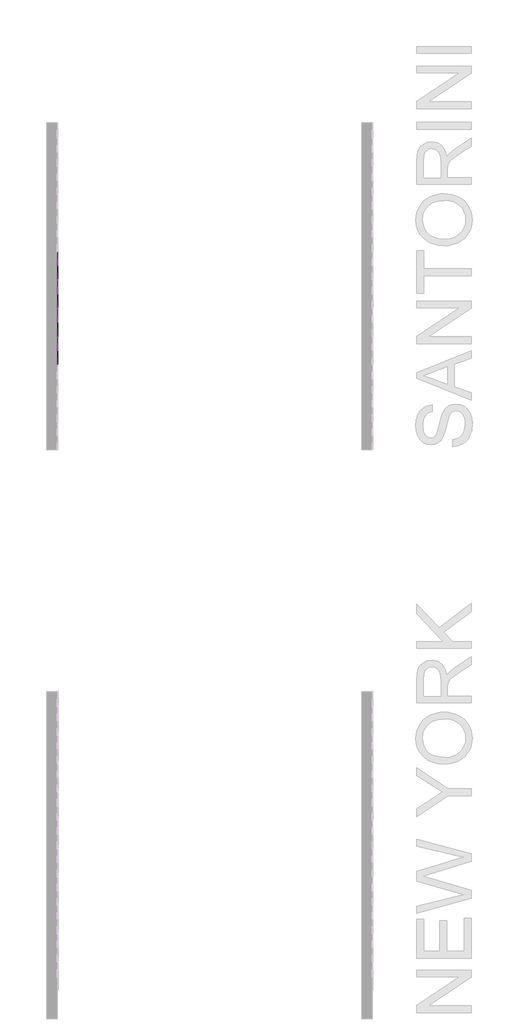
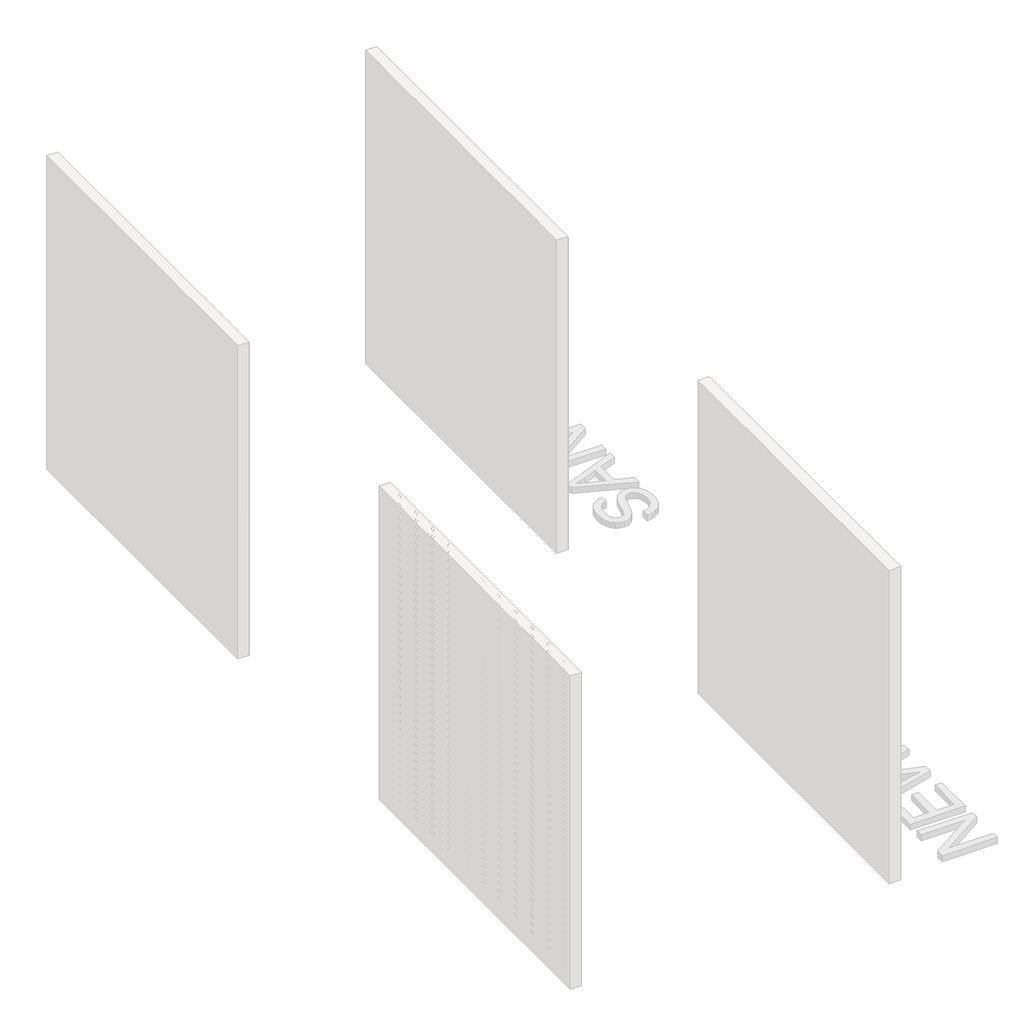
# One storey, part 26 of 45: 147 proxies.
"""IFC4 building model written with IfcOpenShell, lengths in millimetres."""

from ifc_helpers import new_model, si_unit, origin, place, context, project, spatial, transform, mapped, element, save
from components import generic_models_ab0f2c30, generic_models_8a1c671f

model = new_model("IFC4")

# Units and contexts
model_context = context("Model", 3, world=origin())
ifc_project = project(units=[si_unit("LENGTHUNIT", "METRE", prefix="MILLI")], contexts=[model_context])

# Site, building, storey
site = spatial("IfcSite", under=ifc_project)
building = spatial("IfcBuilding", under=site)
storey = spatial("IfcBuildingStorey", under=building, Name="PORTOBELLO - SHOWROOM", Elevation=0.0)

# Proxies
placement = place(None, origin())
generic_models_shape = generic_models_ab0f2c30(model_context)
element("IfcBuildingElementProxy", 1, Name="PBSHOP - HORIZONTES NEW YORK 6,5X23 : NEW YORK", ObjectType="PBSHOP - HORIZONTES NEW YORK 6,5X23 : NEW YORK", at=placement, inside=storey, context=model_context, shape_type="MappedRepresentation", body=[
    mapped(generic_models_shape, transform((69111.8826867, 8138.0036359, 34.5), x_axis=(0.0, 0.0, 1.0), y_axis=(0.0, -1.0, 0.0), z_axis=(1.0, 0.0, 0.0))),
])
element("IfcBuildingElementProxy", 2, Name="PBSHOP - HORIZONTES NEW YORK 6,5X23 : NEW YORK", ObjectType="PBSHOP - HORIZONTES NEW YORK 6,5X23 : NEW YORK", at=placement, inside=storey, context=model_context, shape_type="MappedRepresentation", body=[
    mapped(generic_models_shape, transform((69111.8826867, 8138.0036359, 103.5), x_axis=(0.0, 0.0, 1.0), y_axis=(0.0, -1.0, 0.0), z_axis=(1.0, 0.0, 0.0))),
])
element("IfcBuildingElementProxy", 3, Name="PBSHOP - HORIZONTES NEW YORK 6,5X23 : NEW YORK", ObjectType="PBSHOP - HORIZONTES NEW YORK 6,5X23 : NEW YORK", at=placement, inside=storey, context=model_context, shape_type="MappedRepresentation", body=[
    mapped(generic_models_shape, transform((69111.8826867, 8138.0036359, 172.5), x_axis=(0.0, 0.0, 1.0), y_axis=(0.0, -1.0, 0.0), z_axis=(1.0, 0.0, 0.0))),
])
element("IfcBuildingElementProxy", 4, Name="PBSHOP - HORIZONTES NEW YORK 6,5X23 : NEW YORK", ObjectType="PBSHOP - HORIZONTES NEW YORK 6,5X23 : NEW YORK", at=placement, inside=storey, context=model_context, shape_type="MappedRepresentation", body=[
    mapped(generic_models_shape, transform((69111.8826867, 8138.0036359, 241.5), x_axis=(0.0, 0.0, 1.0), y_axis=(0.0, -1.0, 0.0), z_axis=(1.0, 0.0, 0.0))),
])
element("IfcBuildingElementProxy", 5, Name="PBSHOP - HORIZONTES NEW YORK 6,5X23 : NEW YORK", ObjectType="PBSHOP - HORIZONTES NEW YORK 6,5X23 : NEW YORK", at=placement, inside=storey, context=model_context, shape_type="MappedRepresentation", body=[
    mapped(generic_models_shape, transform((69111.8826867, 8138.0036359, 310.5), x_axis=(0.0, 0.0, 1.0), y_axis=(0.0, -1.0, 0.0), z_axis=(1.0, 0.0, 0.0))),
])
element("IfcBuildingElementProxy", 6, Name="PBSHOP - HORIZONTES NEW YORK 6,5X23 : NEW YORK", ObjectType="PBSHOP - HORIZONTES NEW YORK 6,5X23 : NEW YORK", at=placement, inside=storey, context=model_context, shape_type="MappedRepresentation", body=[
    mapped(generic_models_shape, transform((69111.8826867, 8138.0036359, 379.5), x_axis=(0.0, 0.0, 1.0), y_axis=(0.0, -1.0, 0.0), z_axis=(1.0, 0.0, 0.0))),
])
element("IfcBuildingElementProxy", 7, Name="PBSHOP - HORIZONTES NEW YORK 6,5X23 : NEW YORK", ObjectType="PBSHOP - HORIZONTES NEW YORK 6,5X23 : NEW YORK", at=placement, inside=storey, context=model_context, shape_type="MappedRepresentation", body=[
    mapped(generic_models_shape, transform((69111.8826867, 8138.0036359, 448.5), x_axis=(0.0, 0.0, 1.0), y_axis=(0.0, -1.0, 0.0), z_axis=(1.0, 0.0, 0.0))),
])
element("IfcBuildingElementProxy", 8, Name="PBSHOP - HORIZONTES NEW YORK 6,5X23 : NEW YORK", ObjectType="PBSHOP - HORIZONTES NEW YORK 6,5X23 : NEW YORK", at=placement, inside=storey, context=model_context, shape_type="MappedRepresentation", body=[
    mapped(generic_models_shape, transform((69111.8826867, 8138.0036359, 517.5), x_axis=(0.0, 0.0, 1.0), y_axis=(0.0, -1.0, 0.0), z_axis=(1.0, 0.0, 0.0))),
])
element("IfcBuildingElementProxy", 9, Name="PBSHOP - HORIZONTES NEW YORK 6,5X23 : NEW YORK", ObjectType="PBSHOP - HORIZONTES NEW YORK 6,5X23 : NEW YORK", at=placement, inside=storey, context=model_context, shape_type="MappedRepresentation", body=[
    mapped(generic_models_shape, transform((69111.8826867, 8138.0036359, 586.5), x_axis=(0.0, 0.0, 1.0), y_axis=(0.0, -1.0, 0.0), z_axis=(1.0, 0.0, 0.0))),
])
element("IfcBuildingElementProxy", 10, Name="PBSHOP - HORIZONTES NEW YORK 6,5X23 : NEW YORK", ObjectType="PBSHOP - HORIZONTES NEW YORK 6,5X23 : NEW YORK", at=placement, inside=storey, context=model_context, shape_type="MappedRepresentation", body=[
    mapped(generic_models_shape, transform((69111.8826867, 8138.0036359, 655.5), x_axis=(0.0, 0.0, 1.0), y_axis=(0.0, -1.0, 0.0), z_axis=(1.0, 0.0, 0.0))),
])
element("IfcBuildingElementProxy", 11, Name="PBSHOP - HORIZONTES NEW YORK 6,5X23 : NEW YORK", ObjectType="PBSHOP - HORIZONTES NEW YORK 6,5X23 : NEW YORK", at=placement, inside=storey, context=model_context, shape_type="MappedRepresentation", body=[
    mapped(generic_models_shape, transform((69111.8826867, 8138.0036359, 724.5), x_axis=(0.0, 0.0, 1.0), y_axis=(0.0, -1.0, 0.0), z_axis=(1.0, 0.0, 0.0))),
])
element("IfcBuildingElementProxy", 12, Name="PBSHOP - HORIZONTES NEW YORK 6,5X23 : NEW YORK", ObjectType="PBSHOP - HORIZONTES NEW YORK 6,5X23 : NEW YORK", at=placement, inside=storey, context=model_context, shape_type="MappedRepresentation", body=[
    mapped(generic_models_shape, transform((69111.8826867, 8138.0036359, 793.5), x_axis=(0.0, 0.0, 1.0), y_axis=(0.0, -1.0, 0.0), z_axis=(1.0, 0.0, 0.0))),
])
element("IfcBuildingElementProxy", 13, Name="PBSHOP - HORIZONTES SANTORINI 6,5X23 : SANTORINI ROTAS", ObjectType="PBSHOP - HORIZONTES SANTORINI 6,5X23 : SANTORINI ROTAS", at=placement, inside=storey, context=model_context, shape_type="MappedRepresentation", body=[
    mapped(generic_models_shape, transform((66511.8826867, 11428.0312463, 586.5), x_axis=(0.0, 0.0, 1.0), y_axis=(0.0, -1.0, 0.0), z_axis=(1.0, 0.0, 0.0))),
])
element("IfcBuildingElementProxy", 14, Name="PBSHOP - HORIZONTES SANTORINI 6,5X23 : SANTORINI ROTAS", ObjectType="PBSHOP - HORIZONTES SANTORINI 6,5X23 : SANTORINI ROTAS", at=placement, inside=storey, context=model_context, shape_type="MappedRepresentation", body=[
    mapped(generic_models_shape, transform((66511.8826867, 11662.0312463, 586.5), x_axis=(0.0, 0.0, 1.0), y_axis=(0.0, -1.0, 0.0), z_axis=(1.0, 0.0, 0.0))),
])
element("IfcBuildingElementProxy", 15, Name="PBSHOP - HORIZONTES SANTORINI 6,5X23 : SANTORINI ROTAS", ObjectType="PBSHOP - HORIZONTES SANTORINI 6,5X23 : SANTORINI ROTAS", at=placement, inside=storey, context=model_context, shape_type="MappedRepresentation", body=[
    mapped(generic_models_shape, transform((66511.8826867, 11896.0312463, 586.5), x_axis=(0.0, 0.0, 1.0), y_axis=(0.0, -1.0, 0.0), z_axis=(1.0, 0.0, 0.0))),
])
element("IfcBuildingElementProxy", 16, Name="PBSHOP - HORIZONTES SANTORINI 6,5X23 : SANTORINI ROTAS", ObjectType="PBSHOP - HORIZONTES SANTORINI 6,5X23 : SANTORINI ROTAS", at=placement, inside=storey, context=model_context, shape_type="MappedRepresentation", body=[
    mapped(generic_models_shape, transform((66511.8826867, 11194.0312463, 655.5), x_axis=(0.0, 0.0, 1.0), y_axis=(0.0, -1.0, 0.0), z_axis=(1.0, 0.0, 0.0))),
])
element("IfcBuildingElementProxy", 17, Name="PBSHOP - HORIZONTES SANTORINI 6,5X23 : SANTORINI ROTAS", ObjectType="PBSHOP - HORIZONTES SANTORINI 6,5X23 : SANTORINI ROTAS", at=placement, inside=storey, context=model_context, shape_type="MappedRepresentation", body=[
    mapped(generic_models_shape, transform((66511.8826867, 11428.0312463, 655.5), x_axis=(0.0, 0.0, 1.0), y_axis=(0.0, -1.0, 0.0), z_axis=(1.0, 0.0, 0.0))),
])
element("IfcBuildingElementProxy", 18, Name="PBSHOP - HORIZONTES SANTORINI 6,5X23 : SANTORINI ROTAS", ObjectType="PBSHOP - HORIZONTES SANTORINI 6,5X23 : SANTORINI ROTAS", at=placement, inside=storey, context=model_context, shape_type="MappedRepresentation", body=[
    mapped(generic_models_shape, transform((66511.8826867, 11662.0312463, 655.5), x_axis=(0.0, 0.0, 1.0), y_axis=(0.0, -1.0, 0.0), z_axis=(1.0, 0.0, 0.0))),
])
element("IfcBuildingElementProxy", 19, Name="PBSHOP - HORIZONTES SANTORINI 6,5X23 : SANTORINI ROTAS", ObjectType="PBSHOP - HORIZONTES SANTORINI 6,5X23 : SANTORINI ROTAS", at=placement, inside=storey, context=model_context, shape_type="MappedRepresentation", body=[
    mapped(generic_models_shape, transform((66511.8826867, 11896.0312463, 655.5), x_axis=(0.0, 0.0, 1.0), y_axis=(0.0, -1.0, 0.0), z_axis=(1.0, 0.0, 0.0))),
])
element("IfcBuildingElementProxy", 20, Name="PBSHOP - HORIZONTES SANTORINI 6,5X23 : SANTORINI ROTAS", ObjectType="PBSHOP - HORIZONTES SANTORINI 6,5X23 : SANTORINI ROTAS", at=placement, inside=storey, context=model_context, shape_type="MappedRepresentation", body=[
    mapped(generic_models_shape, transform((66511.8826867, 11194.0312463, 724.5), x_axis=(0.0, 0.0, 1.0), y_axis=(0.0, -1.0, 0.0), z_axis=(1.0, 0.0, 0.0))),
])
element("IfcBuildingElementProxy", 21, Name="PBSHOP - HORIZONTES SANTORINI 6,5X23 : SANTORINI ROTAS", ObjectType="PBSHOP - HORIZONTES SANTORINI 6,5X23 : SANTORINI ROTAS", at=placement, inside=storey, context=model_context, shape_type="MappedRepresentation", body=[
    mapped(generic_models_shape, transform((66511.8826867, 11428.0312463, 724.5), x_axis=(0.0, 0.0, 1.0), y_axis=(0.0, -1.0, 0.0), z_axis=(1.0, 0.0, 0.0))),
])
element("IfcBuildingElementProxy", 22, Name="PBSHOP - HORIZONTES SANTORINI 6,5X23 : SANTORINI ROTAS", ObjectType="PBSHOP - HORIZONTES SANTORINI 6,5X23 : SANTORINI ROTAS", at=placement, inside=storey, context=model_context, shape_type="MappedRepresentation", body=[
    mapped(generic_models_shape, transform((66511.8826867, 11662.0312463, 724.5), x_axis=(0.0, 0.0, 1.0), y_axis=(0.0, -1.0, 0.0), z_axis=(1.0, 0.0, 0.0))),
])
element("IfcBuildingElementProxy", 23, Name="PBSHOP - HORIZONTES SANTORINI 6,5X23 : SANTORINI ROTAS", ObjectType="PBSHOP - HORIZONTES SANTORINI 6,5X23 : SANTORINI ROTAS", at=placement, inside=storey, context=model_context, shape_type="MappedRepresentation", body=[
    mapped(generic_models_shape, transform((66511.8826867, 11896.0312463, 724.5), x_axis=(0.0, 0.0, 1.0), y_axis=(0.0, -1.0, 0.0), z_axis=(1.0, 0.0, 0.0))),
])
element("IfcBuildingElementProxy", 24, Name="PBSHOP - HORIZONTES SANTORINI 6,5X23 : SANTORINI ROTAS", ObjectType="PBSHOP - HORIZONTES SANTORINI 6,5X23 : SANTORINI ROTAS", at=placement, inside=storey, context=model_context, shape_type="MappedRepresentation", body=[
    mapped(generic_models_shape, transform((66511.8826867, 11194.0312463, 793.5), x_axis=(0.0, 0.0, 1.0), y_axis=(0.0, -1.0, 0.0), z_axis=(1.0, 0.0, 0.0))),
])
element("IfcBuildingElementProxy", 25, Name="PBSHOP - HORIZONTES SANTORINI 6,5X23 : SANTORINI ROTAS", ObjectType="PBSHOP - HORIZONTES SANTORINI 6,5X23 : SANTORINI ROTAS", at=placement, inside=storey, context=model_context, shape_type="MappedRepresentation", body=[
    mapped(generic_models_shape, transform((66511.8826867, 11428.0312463, 793.5), x_axis=(0.0, 0.0, 1.0), y_axis=(0.0, -1.0, 0.0), z_axis=(1.0, 0.0, 0.0))),
])
element("IfcBuildingElementProxy", 26, Name="PBSHOP - HORIZONTES SANTORINI 6,5X23 : SANTORINI ROTAS", ObjectType="PBSHOP - HORIZONTES SANTORINI 6,5X23 : SANTORINI ROTAS", at=placement, inside=storey, context=model_context, shape_type="MappedRepresentation", body=[
    mapped(generic_models_shape, transform((66511.8826867, 11662.0312463, 793.5), x_axis=(0.0, 0.0, 1.0), y_axis=(0.0, -1.0, 0.0), z_axis=(1.0, 0.0, 0.0))),
])
element("IfcBuildingElementProxy", 27, Name="PBSHOP - HORIZONTES SANTORINI 6,5X23 : SANTORINI ROTAS", ObjectType="PBSHOP - HORIZONTES SANTORINI 6,5X23 : SANTORINI ROTAS", at=placement, inside=storey, context=model_context, shape_type="MappedRepresentation", body=[
    mapped(generic_models_shape, transform((66511.8826867, 11896.0312463, 793.5), x_axis=(0.0, 0.0, 1.0), y_axis=(0.0, -1.0, 0.0), z_axis=(1.0, 0.0, 0.0))),
])
element("IfcBuildingElementProxy", 28, Name="PBSHOP - HORIZONTES SANTORINI 6,5X23 : SANTORINI ROTAS", ObjectType="PBSHOP - HORIZONTES SANTORINI 6,5X23 : SANTORINI ROTAS", at=placement, inside=storey, context=model_context, shape_type="MappedRepresentation", body=[
    mapped(generic_models_shape, transform((66511.8826867, 11194.0312463, 862.5), x_axis=(0.0, 0.0, 1.0), y_axis=(0.0, -1.0, 0.0), z_axis=(1.0, 0.0, 0.0))),
])
element("IfcBuildingElementProxy", 29, Name="PBSHOP - HORIZONTES SANTORINI 6,5X23 : SANTORINI ROTAS", ObjectType="PBSHOP - HORIZONTES SANTORINI 6,5X23 : SANTORINI ROTAS", at=placement, inside=storey, context=model_context, shape_type="MappedRepresentation", body=[
    mapped(generic_models_shape, transform((66511.8826867, 11428.0312463, 862.5), x_axis=(0.0, 0.0, 1.0), y_axis=(0.0, -1.0, 0.0), z_axis=(1.0, 0.0, 0.0))),
])
element("IfcBuildingElementProxy", 30, Name="PBSHOP - HORIZONTES SANTORINI 6,5X23 : SANTORINI ROTAS", ObjectType="PBSHOP - HORIZONTES SANTORINI 6,5X23 : SANTORINI ROTAS", at=placement, inside=storey, context=model_context, shape_type="MappedRepresentation", body=[
    mapped(generic_models_shape, transform((66511.8826867, 11662.0312463, 862.5), x_axis=(0.0, 0.0, 1.0), y_axis=(0.0, -1.0, 0.0), z_axis=(1.0, 0.0, 0.0))),
])
element("IfcBuildingElementProxy", 31, Name="PBSHOP - HORIZONTES SANTORINI 6,5X23 : SANTORINI ROTAS", ObjectType="PBSHOP - HORIZONTES SANTORINI 6,5X23 : SANTORINI ROTAS", at=placement, inside=storey, context=model_context, shape_type="MappedRepresentation", body=[
    mapped(generic_models_shape, transform((66511.8826867, 11896.0312463, 862.5), x_axis=(0.0, 0.0, 1.0), y_axis=(0.0, -1.0, 0.0), z_axis=(1.0, 0.0, 0.0))),
])
element("IfcBuildingElementProxy", 32, Name="PBSHOP - HORIZONTES SANTORINI 6,5X23 : SANTORINI ROTAS", ObjectType="PBSHOP - HORIZONTES SANTORINI 6,5X23 : SANTORINI ROTAS", at=placement, inside=storey, context=model_context, shape_type="MappedRepresentation", body=[
    mapped(generic_models_shape, transform((66511.8826867, 11194.0312463, 931.5), x_axis=(0.0, 0.0, 1.0), y_axis=(0.0, -1.0, 0.0), z_axis=(1.0, 0.0, 0.0))),
])
element("IfcBuildingElementProxy", 33, Name="PBSHOP - HORIZONTES SANTORINI 6,5X23 : SANTORINI ROTAS", ObjectType="PBSHOP - HORIZONTES SANTORINI 6,5X23 : SANTORINI ROTAS", at=placement, inside=storey, context=model_context, shape_type="MappedRepresentation", body=[
    mapped(generic_models_shape, transform((66511.8826867, 11428.0312463, 931.5), x_axis=(0.0, 0.0, 1.0), y_axis=(0.0, -1.0, 0.0), z_axis=(1.0, 0.0, 0.0))),
])
element("IfcBuildingElementProxy", 34, Name="PBSHOP - HORIZONTES SANTORINI 6,5X23 : SANTORINI ROTAS", ObjectType="PBSHOP - HORIZONTES SANTORINI 6,5X23 : SANTORINI ROTAS", at=placement, inside=storey, context=model_context, shape_type="MappedRepresentation", body=[
    mapped(generic_models_shape, transform((66511.8826867, 11662.0312463, 931.5), x_axis=(0.0, 0.0, 1.0), y_axis=(0.0, -1.0, 0.0), z_axis=(1.0, 0.0, 0.0))),
])
element("IfcBuildingElementProxy", 35, Name="PBSHOP - HORIZONTES SANTORINI 6,5X23 : SANTORINI ROTAS", ObjectType="PBSHOP - HORIZONTES SANTORINI 6,5X23 : SANTORINI ROTAS", at=placement, inside=storey, context=model_context, shape_type="MappedRepresentation", body=[
    mapped(generic_models_shape, transform((66511.8826867, 11896.0312463, 931.5), x_axis=(0.0, 0.0, 1.0), y_axis=(0.0, -1.0, 0.0), z_axis=(1.0, 0.0, 0.0))),
])
element("IfcBuildingElementProxy", 36, Name="PBSHOP - HORIZONTES SANTORINI 6,5X23 : SANTORINI ROTAS", ObjectType="PBSHOP - HORIZONTES SANTORINI 6,5X23 : SANTORINI ROTAS", at=placement, inside=storey, context=model_context, shape_type="MappedRepresentation", body=[
    mapped(generic_models_shape, transform((66511.8826867, 11194.0312463, 1000.5), x_axis=(0.0, 0.0, 1.0), y_axis=(0.0, -1.0, 0.0), z_axis=(1.0, 0.0, 0.0))),
])
element("IfcBuildingElementProxy", 37, Name="PBSHOP - HORIZONTES SANTORINI 6,5X23 : SANTORINI ROTAS", ObjectType="PBSHOP - HORIZONTES SANTORINI 6,5X23 : SANTORINI ROTAS", at=placement, inside=storey, context=model_context, shape_type="MappedRepresentation", body=[
    mapped(generic_models_shape, transform((66511.8826867, 11428.0312463, 1000.5), x_axis=(0.0, 0.0, 1.0), y_axis=(0.0, -1.0, 0.0), z_axis=(1.0, 0.0, 0.0))),
])
element("IfcBuildingElementProxy", 38, Name="PBSHOP - HORIZONTES SANTORINI 6,5X23 : SANTORINI ROTAS", ObjectType="PBSHOP - HORIZONTES SANTORINI 6,5X23 : SANTORINI ROTAS", at=placement, inside=storey, context=model_context, shape_type="MappedRepresentation", body=[
    mapped(generic_models_shape, transform((66511.8826867, 11662.0312463, 1000.5), x_axis=(0.0, 0.0, 1.0), y_axis=(0.0, -1.0, 0.0), z_axis=(1.0, 0.0, 0.0))),
])
element("IfcBuildingElementProxy", 39, Name="PBSHOP - HORIZONTES SANTORINI 6,5X23 : SANTORINI ROTAS", ObjectType="PBSHOP - HORIZONTES SANTORINI 6,5X23 : SANTORINI ROTAS", at=placement, inside=storey, context=model_context, shape_type="MappedRepresentation", body=[
    mapped(generic_models_shape, transform((66511.8826867, 11896.0312463, 1000.5), x_axis=(0.0, 0.0, 1.0), y_axis=(0.0, -1.0, 0.0), z_axis=(1.0, 0.0, 0.0))),
])
element("IfcBuildingElementProxy", 40, Name="PBSHOP - HORIZONTES SANTORINI 6,5X23 : SANTORINI ROTAS", ObjectType="PBSHOP - HORIZONTES SANTORINI 6,5X23 : SANTORINI ROTAS", at=placement, inside=storey, context=model_context, shape_type="MappedRepresentation", body=[
    mapped(generic_models_shape, transform((66511.8826867, 11194.0312463, 1069.5), x_axis=(0.0, 0.0, 1.0), y_axis=(0.0, -1.0, 0.0), z_axis=(1.0, 0.0, 0.0))),
])
element("IfcBuildingElementProxy", 41, Name="PBSHOP - HORIZONTES SANTORINI 6,5X23 : SANTORINI ROTAS", ObjectType="PBSHOP - HORIZONTES SANTORINI 6,5X23 : SANTORINI ROTAS", at=placement, inside=storey, context=model_context, shape_type="MappedRepresentation", body=[
    mapped(generic_models_shape, transform((66511.8826867, 11428.0312463, 1069.5), x_axis=(0.0, 0.0, 1.0), y_axis=(0.0, -1.0, 0.0), z_axis=(1.0, 0.0, 0.0))),
])
element("IfcBuildingElementProxy", 42, Name="PBSHOP - HORIZONTES SANTORINI 6,5X23 : SANTORINI ROTAS", ObjectType="PBSHOP - HORIZONTES SANTORINI 6,5X23 : SANTORINI ROTAS", at=placement, inside=storey, context=model_context, shape_type="MappedRepresentation", body=[
    mapped(generic_models_shape, transform((66511.8826867, 11662.0312463, 1069.5), x_axis=(0.0, 0.0, 1.0), y_axis=(0.0, -1.0, 0.0), z_axis=(1.0, 0.0, 0.0))),
])
element("IfcBuildingElementProxy", 43, Name="PBSHOP - HORIZONTES SANTORINI 6,5X23 : SANTORINI ROTAS", ObjectType="PBSHOP - HORIZONTES SANTORINI 6,5X23 : SANTORINI ROTAS", at=placement, inside=storey, context=model_context, shape_type="MappedRepresentation", body=[
    mapped(generic_models_shape, transform((66511.8826867, 11896.0312463, 1069.5), x_axis=(0.0, 0.0, 1.0), y_axis=(0.0, -1.0, 0.0), z_axis=(1.0, 0.0, 0.0))),
])
element("IfcBuildingElementProxy", 44, Name="PBSHOP - HORIZONTES SANTORINI 6,5X23 : SANTORINI ROTAS", ObjectType="PBSHOP - HORIZONTES SANTORINI 6,5X23 : SANTORINI ROTAS", at=placement, inside=storey, context=model_context, shape_type="MappedRepresentation", body=[
    mapped(generic_models_shape, transform((66511.8826867, 11194.0312463, 1138.5), x_axis=(0.0, 0.0, 1.0), y_axis=(0.0, -1.0, 0.0), z_axis=(1.0, 0.0, 0.0))),
])
element("IfcBuildingElementProxy", 45, Name="PBSHOP - HORIZONTES SANTORINI 6,5X23 : SANTORINI ROTAS", ObjectType="PBSHOP - HORIZONTES SANTORINI 6,5X23 : SANTORINI ROTAS", at=placement, inside=storey, context=model_context, shape_type="MappedRepresentation", body=[
    mapped(generic_models_shape, transform((66511.8826867, 11428.0312463, 1138.5), x_axis=(0.0, 0.0, 1.0), y_axis=(0.0, -1.0, 0.0), z_axis=(1.0, 0.0, 0.0))),
])
element("IfcBuildingElementProxy", 46, Name="PBSHOP - HORIZONTES SANTORINI 6,5X23 : SANTORINI ROTAS", ObjectType="PBSHOP - HORIZONTES SANTORINI 6,5X23 : SANTORINI ROTAS", at=placement, inside=storey, context=model_context, shape_type="MappedRepresentation", body=[
    mapped(generic_models_shape, transform((66511.8826867, 11662.0312463, 1138.5), x_axis=(0.0, 0.0, 1.0), y_axis=(0.0, -1.0, 0.0), z_axis=(1.0, 0.0, 0.0))),
])
element("IfcBuildingElementProxy", 47, Name="PBSHOP - HORIZONTES SANTORINI 6,5X23 : SANTORINI ROTAS", ObjectType="PBSHOP - HORIZONTES SANTORINI 6,5X23 : SANTORINI ROTAS", at=placement, inside=storey, context=model_context, shape_type="MappedRepresentation", body=[
    mapped(generic_models_shape, transform((66511.8826867, 11896.0312463, 1138.5), x_axis=(0.0, 0.0, 1.0), y_axis=(0.0, -1.0, 0.0), z_axis=(1.0, 0.0, 0.0))),
])
element("IfcBuildingElementProxy", 48, Name="PBSHOP - HORIZONTES SANTORINI 6,5X23 : SANTORINI ROTAS", ObjectType="PBSHOP - HORIZONTES SANTORINI 6,5X23 : SANTORINI ROTAS", at=placement, inside=storey, context=model_context, shape_type="MappedRepresentation", body=[
    mapped(generic_models_shape, transform((66511.8826867, 11194.0312463, 1207.5), x_axis=(0.0, 0.0, 1.0), y_axis=(0.0, -1.0, 0.0), z_axis=(1.0, 0.0, 0.0))),
])
element("IfcBuildingElementProxy", 49, Name="PBSHOP - HORIZONTES SANTORINI 6,5X23 : SANTORINI ROTAS", ObjectType="PBSHOP - HORIZONTES SANTORINI 6,5X23 : SANTORINI ROTAS", at=placement, inside=storey, context=model_context, shape_type="MappedRepresentation", body=[
    mapped(generic_models_shape, transform((66511.8826867, 11428.0312463, 1207.5), x_axis=(0.0, 0.0, 1.0), y_axis=(0.0, -1.0, 0.0), z_axis=(1.0, 0.0, 0.0))),
])
element("IfcBuildingElementProxy", 50, Name="PBSHOP - HORIZONTES SANTORINI 6,5X23 : SANTORINI ROTAS", ObjectType="PBSHOP - HORIZONTES SANTORINI 6,5X23 : SANTORINI ROTAS", at=placement, inside=storey, context=model_context, shape_type="MappedRepresentation", body=[
    mapped(generic_models_shape, transform((66511.8826867, 11662.0312463, 1207.5), x_axis=(0.0, 0.0, 1.0), y_axis=(0.0, -1.0, 0.0), z_axis=(1.0, 0.0, 0.0))),
])
element("IfcBuildingElementProxy", 51, Name="PBSHOP - HORIZONTES SANTORINI 6,5X23 : SANTORINI ROTAS", ObjectType="PBSHOP - HORIZONTES SANTORINI 6,5X23 : SANTORINI ROTAS", at=placement, inside=storey, context=model_context, shape_type="MappedRepresentation", body=[
    mapped(generic_models_shape, transform((66511.8826867, 11896.0312463, 1207.5), x_axis=(0.0, 0.0, 1.0), y_axis=(0.0, -1.0, 0.0), z_axis=(1.0, 0.0, 0.0))),
])
element("IfcBuildingElementProxy", 52, Name="PBSHOP - HORIZONTES SANTORINI 6,5X23 : SANTORINI ROTAS", ObjectType="PBSHOP - HORIZONTES SANTORINI 6,5X23 : SANTORINI ROTAS", at=placement, inside=storey, context=model_context, shape_type="MappedRepresentation", body=[
    mapped(generic_models_shape, transform((66511.8826867, 11194.0312463, 1276.5), x_axis=(0.0, 0.0, 1.0), y_axis=(0.0, -1.0, 0.0), z_axis=(1.0, 0.0, 0.0))),
])
element("IfcBuildingElementProxy", 53, Name="PBSHOP - HORIZONTES SANTORINI 6,5X23 : SANTORINI ROTAS", ObjectType="PBSHOP - HORIZONTES SANTORINI 6,5X23 : SANTORINI ROTAS", at=placement, inside=storey, context=model_context, shape_type="MappedRepresentation", body=[
    mapped(generic_models_shape, transform((66511.8826867, 11428.0312463, 1276.5), x_axis=(0.0, 0.0, 1.0), y_axis=(0.0, -1.0, 0.0), z_axis=(1.0, 0.0, 0.0))),
])
element("IfcBuildingElementProxy", 54, Name="PBSHOP - HORIZONTES SANTORINI 6,5X23 : SANTORINI ROTAS", ObjectType="PBSHOP - HORIZONTES SANTORINI 6,5X23 : SANTORINI ROTAS", at=placement, inside=storey, context=model_context, shape_type="MappedRepresentation", body=[
    mapped(generic_models_shape, transform((66511.8826867, 11662.0312463, 1276.5), x_axis=(0.0, 0.0, 1.0), y_axis=(0.0, -1.0, 0.0), z_axis=(1.0, 0.0, 0.0))),
])
element("IfcBuildingElementProxy", 55, Name="PBSHOP - HORIZONTES SANTORINI 6,5X23 : SANTORINI ROTAS", ObjectType="PBSHOP - HORIZONTES SANTORINI 6,5X23 : SANTORINI ROTAS", at=placement, inside=storey, context=model_context, shape_type="MappedRepresentation", body=[
    mapped(generic_models_shape, transform((66511.8826867, 11896.0312463, 1276.5), x_axis=(0.0, 0.0, 1.0), y_axis=(0.0, -1.0, 0.0), z_axis=(1.0, 0.0, 0.0))),
])
element("IfcBuildingElementProxy", 56, Name="PBSHOP - HORIZONTES SANTORINI 6,5X23 : SANTORINI ROTAS", ObjectType="PBSHOP - HORIZONTES SANTORINI 6,5X23 : SANTORINI ROTAS", at=placement, inside=storey, context=model_context, shape_type="MappedRepresentation", body=[
    mapped(generic_models_shape, transform((66511.8826867, 11194.0312463, 1345.5), x_axis=(0.0, 0.0, 1.0), y_axis=(0.0, -1.0, 0.0), z_axis=(1.0, 0.0, 0.0))),
])
element("IfcBuildingElementProxy", 57, Name="PBSHOP - HORIZONTES SANTORINI 6,5X23 : SANTORINI ROTAS", ObjectType="PBSHOP - HORIZONTES SANTORINI 6,5X23 : SANTORINI ROTAS", at=placement, inside=storey, context=model_context, shape_type="MappedRepresentation", body=[
    mapped(generic_models_shape, transform((66511.8826867, 11428.0312463, 1345.5), x_axis=(0.0, 0.0, 1.0), y_axis=(0.0, -1.0, 0.0), z_axis=(1.0, 0.0, 0.0))),
])
element("IfcBuildingElementProxy", 58, Name="PBSHOP - HORIZONTES SANTORINI 6,5X23 : SANTORINI ROTAS", ObjectType="PBSHOP - HORIZONTES SANTORINI 6,5X23 : SANTORINI ROTAS", at=placement, inside=storey, context=model_context, shape_type="MappedRepresentation", body=[
    mapped(generic_models_shape, transform((66511.8826867, 11662.0312463, 1345.5), x_axis=(0.0, 0.0, 1.0), y_axis=(0.0, -1.0, 0.0), z_axis=(1.0, 0.0, 0.0))),
])
element("IfcBuildingElementProxy", 59, Name="PBSHOP - HORIZONTES SANTORINI 6,5X23 : SANTORINI ROTAS", ObjectType="PBSHOP - HORIZONTES SANTORINI 6,5X23 : SANTORINI ROTAS", at=placement, inside=storey, context=model_context, shape_type="MappedRepresentation", body=[
    mapped(generic_models_shape, transform((66511.8826867, 11896.0312463, 1345.5), x_axis=(0.0, 0.0, 1.0), y_axis=(0.0, -1.0, 0.0), z_axis=(1.0, 0.0, 0.0))),
])
element("IfcBuildingElementProxy", 60, Name="PBSHOP - HORIZONTES SANTORINI 6,5X23 : SANTORINI ROTAS", ObjectType="PBSHOP - HORIZONTES SANTORINI 6,5X23 : SANTORINI ROTAS", at=placement, inside=storey, context=model_context, shape_type="MappedRepresentation", body=[
    mapped(generic_models_shape, transform((66511.8826867, 11194.0312463, 1414.5), x_axis=(0.0, 0.0, 1.0), y_axis=(0.0, -1.0, 0.0), z_axis=(1.0, 0.0, 0.0))),
])
element("IfcBuildingElementProxy", 61, Name="PBSHOP - HORIZONTES SANTORINI 6,5X23 : SANTORINI ROTAS", ObjectType="PBSHOP - HORIZONTES SANTORINI 6,5X23 : SANTORINI ROTAS", at=placement, inside=storey, context=model_context, shape_type="MappedRepresentation", body=[
    mapped(generic_models_shape, transform((66511.8826867, 11428.0312463, 1414.5), x_axis=(0.0, 0.0, 1.0), y_axis=(0.0, -1.0, 0.0), z_axis=(1.0, 0.0, 0.0))),
])
element("IfcBuildingElementProxy", 62, Name="PBSHOP - HORIZONTES SANTORINI 6,5X23 : SANTORINI ROTAS", ObjectType="PBSHOP - HORIZONTES SANTORINI 6,5X23 : SANTORINI ROTAS", at=placement, inside=storey, context=model_context, shape_type="MappedRepresentation", body=[
    mapped(generic_models_shape, transform((66511.8826867, 11662.0312463, 1414.5), x_axis=(0.0, 0.0, 1.0), y_axis=(0.0, -1.0, 0.0), z_axis=(1.0, 0.0, 0.0))),
])
element("IfcBuildingElementProxy", 63, Name="PBSHOP - HORIZONTES SANTORINI 6,5X23 : SANTORINI ROTAS", ObjectType="PBSHOP - HORIZONTES SANTORINI 6,5X23 : SANTORINI ROTAS", at=placement, inside=storey, context=model_context, shape_type="MappedRepresentation", body=[
    mapped(generic_models_shape, transform((66511.8826867, 11896.0312463, 1414.5), x_axis=(0.0, 0.0, 1.0), y_axis=(0.0, -1.0, 0.0), z_axis=(1.0, 0.0, 0.0))),
])
element("IfcBuildingElementProxy", 64, Name="PBSHOP - HORIZONTES SANTORINI 6,5X23 : SANTORINI ROTAS", ObjectType="PBSHOP - HORIZONTES SANTORINI 6,5X23 : SANTORINI ROTAS", at=placement, inside=storey, context=model_context, shape_type="MappedRepresentation", body=[
    mapped(generic_models_shape, transform((66511.8826867, 11194.0312463, 1483.5), x_axis=(0.0, 0.0, 1.0), y_axis=(0.0, -1.0, 0.0), z_axis=(1.0, 0.0, 0.0))),
])
element("IfcBuildingElementProxy", 65, Name="PBSHOP - HORIZONTES SANTORINI 6,5X23 : SANTORINI ROTAS", ObjectType="PBSHOP - HORIZONTES SANTORINI 6,5X23 : SANTORINI ROTAS", at=placement, inside=storey, context=model_context, shape_type="MappedRepresentation", body=[
    mapped(generic_models_shape, transform((66511.8826867, 11428.0312463, 1483.5), x_axis=(0.0, 0.0, 1.0), y_axis=(0.0, -1.0, 0.0), z_axis=(1.0, 0.0, 0.0))),
])
element("IfcBuildingElementProxy", 66, Name="PBSHOP - HORIZONTES SANTORINI 6,5X23 : SANTORINI ROTAS", ObjectType="PBSHOP - HORIZONTES SANTORINI 6,5X23 : SANTORINI ROTAS", at=placement, inside=storey, context=model_context, shape_type="MappedRepresentation", body=[
    mapped(generic_models_shape, transform((66511.8826867, 11662.0312463, 1483.5), x_axis=(0.0, 0.0, 1.0), y_axis=(0.0, -1.0, 0.0), z_axis=(1.0, 0.0, 0.0))),
])
element("IfcBuildingElementProxy", 67, Name="PBSHOP - HORIZONTES SANTORINI 6,5X23 : SANTORINI ROTAS", ObjectType="PBSHOP - HORIZONTES SANTORINI 6,5X23 : SANTORINI ROTAS", at=placement, inside=storey, context=model_context, shape_type="MappedRepresentation", body=[
    mapped(generic_models_shape, transform((66511.8826867, 11896.0312463, 1483.5), x_axis=(0.0, 0.0, 1.0), y_axis=(0.0, -1.0, 0.0), z_axis=(1.0, 0.0, 0.0))),
])
element("IfcBuildingElementProxy", 68, Name="PBSHOP - HORIZONTES SANTORINI 6,5X23 : SANTORINI ROTAS", ObjectType="PBSHOP - HORIZONTES SANTORINI 6,5X23 : SANTORINI ROTAS", at=placement, inside=storey, context=model_context, shape_type="MappedRepresentation", body=[
    mapped(generic_models_shape, transform((66511.8826867, 11194.0312463, 1552.5), x_axis=(0.0, 0.0, 1.0), y_axis=(0.0, -1.0, 0.0), z_axis=(1.0, 0.0, 0.0))),
])
element("IfcBuildingElementProxy", 69, Name="PBSHOP - HORIZONTES SANTORINI 6,5X23 : SANTORINI ROTAS", ObjectType="PBSHOP - HORIZONTES SANTORINI 6,5X23 : SANTORINI ROTAS", at=placement, inside=storey, context=model_context, shape_type="MappedRepresentation", body=[
    mapped(generic_models_shape, transform((66511.8826867, 11428.0312463, 1552.5), x_axis=(0.0, 0.0, 1.0), y_axis=(0.0, -1.0, 0.0), z_axis=(1.0, 0.0, 0.0))),
])
element("IfcBuildingElementProxy", 70, Name="PBSHOP - HORIZONTES SANTORINI 6,5X23 : SANTORINI ROTAS", ObjectType="PBSHOP - HORIZONTES SANTORINI 6,5X23 : SANTORINI ROTAS", at=placement, inside=storey, context=model_context, shape_type="MappedRepresentation", body=[
    mapped(generic_models_shape, transform((66511.8826867, 11662.0312463, 1552.5), x_axis=(0.0, 0.0, 1.0), y_axis=(0.0, -1.0, 0.0), z_axis=(1.0, 0.0, 0.0))),
])
element("IfcBuildingElementProxy", 71, Name="PBSHOP - HORIZONTES SANTORINI 6,5X23 : SANTORINI ROTAS", ObjectType="PBSHOP - HORIZONTES SANTORINI 6,5X23 : SANTORINI ROTAS", at=placement, inside=storey, context=model_context, shape_type="MappedRepresentation", body=[
    mapped(generic_models_shape, transform((66511.8826867, 11896.0312463, 1552.5), x_axis=(0.0, 0.0, 1.0), y_axis=(0.0, -1.0, 0.0), z_axis=(1.0, 0.0, 0.0))),
])
element("IfcBuildingElementProxy", 72, Name="PBSHOP - HORIZONTES SANTORINI 6,5X23 : SANTORINI ROTAS", ObjectType="PBSHOP - HORIZONTES SANTORINI 6,5X23 : SANTORINI ROTAS", at=placement, inside=storey, context=model_context, shape_type="MappedRepresentation", body=[
    mapped(generic_models_shape, transform((66511.8826867, 11194.0312463, 1621.5), x_axis=(0.0, 0.0, 1.0), y_axis=(0.0, -1.0, 0.0), z_axis=(1.0, 0.0, 0.0))),
])
element("IfcBuildingElementProxy", 73, Name="PBSHOP - HORIZONTES SANTORINI 6,5X23 : SANTORINI ROTAS", ObjectType="PBSHOP - HORIZONTES SANTORINI 6,5X23 : SANTORINI ROTAS", at=placement, inside=storey, context=model_context, shape_type="MappedRepresentation", body=[
    mapped(generic_models_shape, transform((66511.8826867, 11428.0312463, 1621.5), x_axis=(0.0, 0.0, 1.0), y_axis=(0.0, -1.0, 0.0), z_axis=(1.0, 0.0, 0.0))),
])
element("IfcBuildingElementProxy", 74, Name="PBSHOP - HORIZONTES SANTORINI 6,5X23 : SANTORINI ROTAS", ObjectType="PBSHOP - HORIZONTES SANTORINI 6,5X23 : SANTORINI ROTAS", at=placement, inside=storey, context=model_context, shape_type="MappedRepresentation", body=[
    mapped(generic_models_shape, transform((66511.8826867, 11662.0312463, 1621.5), x_axis=(0.0, 0.0, 1.0), y_axis=(0.0, -1.0, 0.0), z_axis=(1.0, 0.0, 0.0))),
])
element("IfcBuildingElementProxy", 75, Name="PBSHOP - HORIZONTES SANTORINI 6,5X23 : SANTORINI ROTAS", ObjectType="PBSHOP - HORIZONTES SANTORINI 6,5X23 : SANTORINI ROTAS", at=placement, inside=storey, context=model_context, shape_type="MappedRepresentation", body=[
    mapped(generic_models_shape, transform((66511.8826867, 11896.0312463, 1621.5), x_axis=(0.0, 0.0, 1.0), y_axis=(0.0, -1.0, 0.0), z_axis=(1.0, 0.0, 0.0))),
])
element("IfcBuildingElementProxy", 76, Name="PBSHOP - HORIZONTES SANTORINI 6,5X23 : SANTORINI ROTAS", ObjectType="PBSHOP - HORIZONTES SANTORINI 6,5X23 : SANTORINI ROTAS", at=placement, inside=storey, context=model_context, shape_type="MappedRepresentation", body=[
    mapped(generic_models_shape, transform((66511.8826867, 11194.0312463, 1690.5), x_axis=(0.0, 0.0, 1.0), y_axis=(0.0, -1.0, 0.0), z_axis=(1.0, 0.0, 0.0))),
])
element("IfcBuildingElementProxy", 77, Name="PBSHOP - HORIZONTES SANTORINI 6,5X23 : SANTORINI ROTAS", ObjectType="PBSHOP - HORIZONTES SANTORINI 6,5X23 : SANTORINI ROTAS", at=placement, inside=storey, context=model_context, shape_type="MappedRepresentation", body=[
    mapped(generic_models_shape, transform((66511.8826867, 11428.0312463, 1690.5), x_axis=(0.0, 0.0, 1.0), y_axis=(0.0, -1.0, 0.0), z_axis=(1.0, 0.0, 0.0))),
])
element("IfcBuildingElementProxy", 78, Name="PBSHOP - HORIZONTES SANTORINI 6,5X23 : SANTORINI ROTAS", ObjectType="PBSHOP - HORIZONTES SANTORINI 6,5X23 : SANTORINI ROTAS", at=placement, inside=storey, context=model_context, shape_type="MappedRepresentation", body=[
    mapped(generic_models_shape, transform((66511.8826867, 11662.0312463, 1690.5), x_axis=(0.0, 0.0, 1.0), y_axis=(0.0, -1.0, 0.0), z_axis=(1.0, 0.0, 0.0))),
])
element("IfcBuildingElementProxy", 79, Name="PBSHOP - HORIZONTES SANTORINI 6,5X23 : SANTORINI ROTAS", ObjectType="PBSHOP - HORIZONTES SANTORINI 6,5X23 : SANTORINI ROTAS", at=placement, inside=storey, context=model_context, shape_type="MappedRepresentation", body=[
    mapped(generic_models_shape, transform((66511.8826867, 11896.0312463, 1690.5), x_axis=(0.0, 0.0, 1.0), y_axis=(0.0, -1.0, 0.0), z_axis=(1.0, 0.0, 0.0))),
])
element("IfcBuildingElementProxy", 80, Name="PBSHOP - HORIZONTES SANTORINI 6,5X23 : SANTORINI ROTAS", ObjectType="PBSHOP - HORIZONTES SANTORINI 6,5X23 : SANTORINI ROTAS", at=placement, inside=storey, context=model_context, shape_type="MappedRepresentation", body=[
    mapped(generic_models_shape, transform((66511.8826867, 11194.0312463, 1759.5), x_axis=(0.0, 0.0, 1.0), y_axis=(0.0, -1.0, 0.0), z_axis=(1.0, 0.0, 0.0))),
])
element("IfcBuildingElementProxy", 81, Name="PBSHOP - HORIZONTES SANTORINI 6,5X23 : SANTORINI ROTAS", ObjectType="PBSHOP - HORIZONTES SANTORINI 6,5X23 : SANTORINI ROTAS", at=placement, inside=storey, context=model_context, shape_type="MappedRepresentation", body=[
    mapped(generic_models_shape, transform((66511.8826867, 11428.0312463, 1759.5), x_axis=(0.0, 0.0, 1.0), y_axis=(0.0, -1.0, 0.0), z_axis=(1.0, 0.0, 0.0))),
])
element("IfcBuildingElementProxy", 82, Name="PBSHOP - HORIZONTES SANTORINI 6,5X23 : SANTORINI ROTAS", ObjectType="PBSHOP - HORIZONTES SANTORINI 6,5X23 : SANTORINI ROTAS", at=placement, inside=storey, context=model_context, shape_type="MappedRepresentation", body=[
    mapped(generic_models_shape, transform((66511.8826867, 11662.0312463, 1759.5), x_axis=(0.0, 0.0, 1.0), y_axis=(0.0, -1.0, 0.0), z_axis=(1.0, 0.0, 0.0))),
])
element("IfcBuildingElementProxy", 83, Name="PBSHOP - HORIZONTES SANTORINI 6,5X23 : SANTORINI ROTAS", ObjectType="PBSHOP - HORIZONTES SANTORINI 6,5X23 : SANTORINI ROTAS", at=placement, inside=storey, context=model_context, shape_type="MappedRepresentation", body=[
    mapped(generic_models_shape, transform((66511.8826867, 11896.0312463, 1759.5), x_axis=(0.0, 0.0, 1.0), y_axis=(0.0, -1.0, 0.0), z_axis=(1.0, 0.0, 0.0))),
])
element("IfcBuildingElementProxy", 84, Name="PBSHOP - HORIZONTES SANTORINI 6,5X23 : SANTORINI ROTAS", ObjectType="PBSHOP - HORIZONTES SANTORINI 6,5X23 : SANTORINI ROTAS", at=placement, inside=storey, context=model_context, shape_type="MappedRepresentation", body=[
    mapped(generic_models_shape, transform((66511.8826867, 11194.0312463, 1828.5), x_axis=(0.0, 0.0, 1.0), y_axis=(0.0, -1.0, 0.0), z_axis=(1.0, 0.0, 0.0))),
])
element("IfcBuildingElementProxy", 85, Name="PBSHOP - HORIZONTES SANTORINI 6,5X23 : SANTORINI ROTAS", ObjectType="PBSHOP - HORIZONTES SANTORINI 6,5X23 : SANTORINI ROTAS", at=placement, inside=storey, context=model_context, shape_type="MappedRepresentation", body=[
    mapped(generic_models_shape, transform((66511.8826867, 11428.0312463, 1828.5), x_axis=(0.0, 0.0, 1.0), y_axis=(0.0, -1.0, 0.0), z_axis=(1.0, 0.0, 0.0))),
])
element("IfcBuildingElementProxy", 86, Name="PBSHOP - HORIZONTES SANTORINI 6,5X23 : SANTORINI ROTAS", ObjectType="PBSHOP - HORIZONTES SANTORINI 6,5X23 : SANTORINI ROTAS", at=placement, inside=storey, context=model_context, shape_type="MappedRepresentation", body=[
    mapped(generic_models_shape, transform((66511.8826867, 11662.0312463, 1828.5), x_axis=(0.0, 0.0, 1.0), y_axis=(0.0, -1.0, 0.0), z_axis=(1.0, 0.0, 0.0))),
])
element("IfcBuildingElementProxy", 87, Name="PBSHOP - HORIZONTES SANTORINI 6,5X23 : SANTORINI ROTAS", ObjectType="PBSHOP - HORIZONTES SANTORINI 6,5X23 : SANTORINI ROTAS", at=placement, inside=storey, context=model_context, shape_type="MappedRepresentation", body=[
    mapped(generic_models_shape, transform((66511.8826867, 11896.0312463, 1828.5), x_axis=(0.0, 0.0, 1.0), y_axis=(0.0, -1.0, 0.0), z_axis=(1.0, 0.0, 0.0))),
])
element("IfcBuildingElementProxy", 88, Name="PBSHOP - HORIZONTES SANTORINI 6,5X23 : SANTORINI ROTAS", ObjectType="PBSHOP - HORIZONTES SANTORINI 6,5X23 : SANTORINI ROTAS", at=placement, inside=storey, context=model_context, shape_type="MappedRepresentation", body=[
    mapped(generic_models_shape, transform((66511.8826867, 11194.0312463, 1897.5), x_axis=(0.0, 0.0, 1.0), y_axis=(0.0, -1.0, 0.0), z_axis=(1.0, 0.0, 0.0))),
])
element("IfcBuildingElementProxy", 89, Name="PBSHOP - HORIZONTES SANTORINI 6,5X23 : SANTORINI ROTAS", ObjectType="PBSHOP - HORIZONTES SANTORINI 6,5X23 : SANTORINI ROTAS", at=placement, inside=storey, context=model_context, shape_type="MappedRepresentation", body=[
    mapped(generic_models_shape, transform((66511.8826867, 11428.0312463, 1897.5), x_axis=(0.0, 0.0, 1.0), y_axis=(0.0, -1.0, 0.0), z_axis=(1.0, 0.0, 0.0))),
])
element("IfcBuildingElementProxy", 90, Name="PBSHOP - HORIZONTES SANTORINI 6,5X23 : SANTORINI ROTAS", ObjectType="PBSHOP - HORIZONTES SANTORINI 6,5X23 : SANTORINI ROTAS", at=placement, inside=storey, context=model_context, shape_type="MappedRepresentation", body=[
    mapped(generic_models_shape, transform((66511.8826867, 11662.0312463, 1897.5), x_axis=(0.0, 0.0, 1.0), y_axis=(0.0, -1.0, 0.0), z_axis=(1.0, 0.0, 0.0))),
])
element("IfcBuildingElementProxy", 91, Name="PBSHOP - HORIZONTES SANTORINI 6,5X23 : SANTORINI ROTAS", ObjectType="PBSHOP - HORIZONTES SANTORINI 6,5X23 : SANTORINI ROTAS", at=placement, inside=storey, context=model_context, shape_type="MappedRepresentation", body=[
    mapped(generic_models_shape, transform((66511.8826867, 11896.0312463, 1897.5), x_axis=(0.0, 0.0, 1.0), y_axis=(0.0, -1.0, 0.0), z_axis=(1.0, 0.0, 0.0))),
])
element("IfcBuildingElementProxy", 92, Name="PBSHOP - HORIZONTES SANTORINI 6,5X23 : SANTORINI ROTAS", ObjectType="PBSHOP - HORIZONTES SANTORINI 6,5X23 : SANTORINI ROTAS", at=placement, inside=storey, context=model_context, shape_type="MappedRepresentation", body=[
    mapped(generic_models_shape, transform((66511.8826867, 11194.0312463, 1966.5), x_axis=(0.0, 0.0, 1.0), y_axis=(0.0, -1.0, 0.0), z_axis=(1.0, 0.0, 0.0))),
])
element("IfcBuildingElementProxy", 93, Name="PBSHOP - HORIZONTES SANTORINI 6,5X23 : SANTORINI ROTAS", ObjectType="PBSHOP - HORIZONTES SANTORINI 6,5X23 : SANTORINI ROTAS", at=placement, inside=storey, context=model_context, shape_type="MappedRepresentation", body=[
    mapped(generic_models_shape, transform((66511.8826867, 11428.0312463, 1966.5), x_axis=(0.0, 0.0, 1.0), y_axis=(0.0, -1.0, 0.0), z_axis=(1.0, 0.0, 0.0))),
])
element("IfcBuildingElementProxy", 94, Name="PBSHOP - HORIZONTES SANTORINI 6,5X23 : SANTORINI ROTAS", ObjectType="PBSHOP - HORIZONTES SANTORINI 6,5X23 : SANTORINI ROTAS", at=placement, inside=storey, context=model_context, shape_type="MappedRepresentation", body=[
    mapped(generic_models_shape, transform((66511.8826867, 11662.0312463, 1966.5), x_axis=(0.0, 0.0, 1.0), y_axis=(0.0, -1.0, 0.0), z_axis=(1.0, 0.0, 0.0))),
])
element("IfcBuildingElementProxy", 95, Name="PBSHOP - HORIZONTES SANTORINI 6,5X23 : SANTORINI ROTAS", ObjectType="PBSHOP - HORIZONTES SANTORINI 6,5X23 : SANTORINI ROTAS", at=placement, inside=storey, context=model_context, shape_type="MappedRepresentation", body=[
    mapped(generic_models_shape, transform((66511.8826867, 11896.0312463, 1966.5), x_axis=(0.0, 0.0, 1.0), y_axis=(0.0, -1.0, 0.0), z_axis=(1.0, 0.0, 0.0))),
])
element("IfcBuildingElementProxy", 96, Name="PBSHOP - HORIZONTES SANTORINI 6,5X23 : SANTORINI ROTAS", ObjectType="PBSHOP - HORIZONTES SANTORINI 6,5X23 : SANTORINI ROTAS", at=placement, inside=storey, context=model_context, shape_type="MappedRepresentation", body=[
    mapped(generic_models_shape, transform((66511.8826867, 11194.0312463, 2035.5), x_axis=(0.0, 0.0, 1.0), y_axis=(0.0, -1.0, 0.0), z_axis=(1.0, 0.0, 0.0))),
])
element("IfcBuildingElementProxy", 97, Name="PBSHOP - HORIZONTES SANTORINI 6,5X23 : SANTORINI ROTAS", ObjectType="PBSHOP - HORIZONTES SANTORINI 6,5X23 : SANTORINI ROTAS", at=placement, inside=storey, context=model_context, shape_type="MappedRepresentation", body=[
    mapped(generic_models_shape, transform((66511.8826867, 11428.0312463, 2035.5), x_axis=(0.0, 0.0, 1.0), y_axis=(0.0, -1.0, 0.0), z_axis=(1.0, 0.0, 0.0))),
])
element("IfcBuildingElementProxy", 98, Name="PBSHOP - HORIZONTES SANTORINI 6,5X23 : SANTORINI ROTAS", ObjectType="PBSHOP - HORIZONTES SANTORINI 6,5X23 : SANTORINI ROTAS", at=placement, inside=storey, context=model_context, shape_type="MappedRepresentation", body=[
    mapped(generic_models_shape, transform((66511.8826867, 11662.0312463, 2035.5), x_axis=(0.0, 0.0, 1.0), y_axis=(0.0, -1.0, 0.0), z_axis=(1.0, 0.0, 0.0))),
])
element("IfcBuildingElementProxy", 99, Name="PBSHOP - HORIZONTES SANTORINI 6,5X23 : SANTORINI ROTAS", ObjectType="PBSHOP - HORIZONTES SANTORINI 6,5X23 : SANTORINI ROTAS", at=placement, inside=storey, context=model_context, shape_type="MappedRepresentation", body=[
    mapped(generic_models_shape, transform((66511.8826867, 11896.0312463, 2035.5), x_axis=(0.0, 0.0, 1.0), y_axis=(0.0, -1.0, 0.0), z_axis=(1.0, 0.0, 0.0))),
])
element("IfcBuildingElementProxy", 100, Name="PBSHOP - HORIZONTES SANTORINI 6,5X23 : SANTORINI ROTAS", ObjectType="PBSHOP - HORIZONTES SANTORINI 6,5X23 : SANTORINI ROTAS", at=placement, inside=storey, context=model_context, shape_type="MappedRepresentation", body=[
    mapped(generic_models_shape, transform((66511.8826867, 11194.0312463, 2104.5), x_axis=(0.0, 0.0, 1.0), y_axis=(0.0, -1.0, 0.0), z_axis=(1.0, 0.0, 0.0))),
])
element("IfcBuildingElementProxy", 101, Name="PBSHOP - HORIZONTES SANTORINI 6,5X23 : SANTORINI ROTAS", ObjectType="PBSHOP - HORIZONTES SANTORINI 6,5X23 : SANTORINI ROTAS", at=placement, inside=storey, context=model_context, shape_type="MappedRepresentation", body=[
    mapped(generic_models_shape, transform((66511.8826867, 11428.0312463, 2104.5), x_axis=(0.0, 0.0, 1.0), y_axis=(0.0, -1.0, 0.0), z_axis=(1.0, 0.0, 0.0))),
])
element("IfcBuildingElementProxy", 102, Name="PBSHOP - HORIZONTES SANTORINI 6,5X23 : SANTORINI ROTAS", ObjectType="PBSHOP - HORIZONTES SANTORINI 6,5X23 : SANTORINI ROTAS", at=placement, inside=storey, context=model_context, shape_type="MappedRepresentation", body=[
    mapped(generic_models_shape, transform((66511.8826867, 11662.0312463, 2104.5), x_axis=(0.0, 0.0, 1.0), y_axis=(0.0, -1.0, 0.0), z_axis=(1.0, 0.0, 0.0))),
])
element("IfcBuildingElementProxy", 103, Name="PBSHOP - HORIZONTES SANTORINI 6,5X23 : SANTORINI ROTAS", ObjectType="PBSHOP - HORIZONTES SANTORINI 6,5X23 : SANTORINI ROTAS", at=placement, inside=storey, context=model_context, shape_type="MappedRepresentation", body=[
    mapped(generic_models_shape, transform((66511.8826867, 11896.0312463, 2104.5), x_axis=(0.0, 0.0, 1.0), y_axis=(0.0, -1.0, 0.0), z_axis=(1.0, 0.0, 0.0))),
])
element("IfcBuildingElementProxy", 104, Name="PBSHOP - HORIZONTES SANTORINI 6,5X23 : SANTORINI ROTAS", ObjectType="PBSHOP - HORIZONTES SANTORINI 6,5X23 : SANTORINI ROTAS", at=placement, inside=storey, context=model_context, shape_type="MappedRepresentation", body=[
    mapped(generic_models_shape, transform((66511.8826867, 11194.0312463, 2173.5), x_axis=(0.0, 0.0, 1.0), y_axis=(0.0, -1.0, 0.0), z_axis=(1.0, 0.0, 0.0))),
])
element("IfcBuildingElementProxy", 105, Name="PBSHOP - HORIZONTES SANTORINI 6,5X23 : SANTORINI ROTAS", ObjectType="PBSHOP - HORIZONTES SANTORINI 6,5X23 : SANTORINI ROTAS", at=placement, inside=storey, context=model_context, shape_type="MappedRepresentation", body=[
    mapped(generic_models_shape, transform((66511.8826867, 11428.0312463, 2173.5), x_axis=(0.0, 0.0, 1.0), y_axis=(0.0, -1.0, 0.0), z_axis=(1.0, 0.0, 0.0))),
])
element("IfcBuildingElementProxy", 106, Name="PBSHOP - HORIZONTES SANTORINI 6,5X23 : SANTORINI ROTAS", ObjectType="PBSHOP - HORIZONTES SANTORINI 6,5X23 : SANTORINI ROTAS", at=placement, inside=storey, context=model_context, shape_type="MappedRepresentation", body=[
    mapped(generic_models_shape, transform((66511.8826867, 11662.0312463, 2173.5), x_axis=(0.0, 0.0, 1.0), y_axis=(0.0, -1.0, 0.0), z_axis=(1.0, 0.0, 0.0))),
])
element("IfcBuildingElementProxy", 107, Name="PBSHOP - HORIZONTES SANTORINI 6,5X23 : SANTORINI ROTAS", ObjectType="PBSHOP - HORIZONTES SANTORINI 6,5X23 : SANTORINI ROTAS", at=placement, inside=storey, context=model_context, shape_type="MappedRepresentation", body=[
    mapped(generic_models_shape, transform((66511.8826867, 11896.0312463, 2173.5), x_axis=(0.0, 0.0, 1.0), y_axis=(0.0, -1.0, 0.0), z_axis=(1.0, 0.0, 0.0))),
])
element("IfcBuildingElementProxy", 108, Name="PBSHOP - HORIZONTES SANTORINI 6,5X23 : SANTORINI ROTAS", ObjectType="PBSHOP - HORIZONTES SANTORINI 6,5X23 : SANTORINI ROTAS", at=placement, inside=storey, context=model_context, shape_type="MappedRepresentation", body=[
    mapped(generic_models_shape, transform((66511.8826867, 11194.0312463, 2242.5), x_axis=(0.0, 0.0, 1.0), y_axis=(0.0, -1.0, 0.0), z_axis=(1.0, 0.0, 0.0))),
])
element("IfcBuildingElementProxy", 109, Name="PBSHOP - HORIZONTES SANTORINI 6,5X23 : SANTORINI ROTAS", ObjectType="PBSHOP - HORIZONTES SANTORINI 6,5X23 : SANTORINI ROTAS", at=placement, inside=storey, context=model_context, shape_type="MappedRepresentation", body=[
    mapped(generic_models_shape, transform((66511.8826867, 11428.0312463, 2242.5), x_axis=(0.0, 0.0, 1.0), y_axis=(0.0, -1.0, 0.0), z_axis=(1.0, 0.0, 0.0))),
])
element("IfcBuildingElementProxy", 110, Name="PBSHOP - HORIZONTES SANTORINI 6,5X23 : SANTORINI ROTAS", ObjectType="PBSHOP - HORIZONTES SANTORINI 6,5X23 : SANTORINI ROTAS", at=placement, inside=storey, context=model_context, shape_type="MappedRepresentation", body=[
    mapped(generic_models_shape, transform((66511.8826867, 11662.0312463, 2242.5), x_axis=(0.0, 0.0, 1.0), y_axis=(0.0, -1.0, 0.0), z_axis=(1.0, 0.0, 0.0))),
])
element("IfcBuildingElementProxy", 111, Name="PBSHOP - HORIZONTES SANTORINI 6,5X23 : SANTORINI ROTAS", ObjectType="PBSHOP - HORIZONTES SANTORINI 6,5X23 : SANTORINI ROTAS", at=placement, inside=storey, context=model_context, shape_type="MappedRepresentation", body=[
    mapped(generic_models_shape, transform((66511.8826867, 11896.0312463, 2242.5), x_axis=(0.0, 0.0, 1.0), y_axis=(0.0, -1.0, 0.0), z_axis=(1.0, 0.0, 0.0))),
])
element("IfcBuildingElementProxy", 112, Name="PBSHOP - HORIZONTES SANTORINI 6,5X23 : SANTORINI ROTAS", ObjectType="PBSHOP - HORIZONTES SANTORINI 6,5X23 : SANTORINI ROTAS", at=placement, inside=storey, context=model_context, shape_type="MappedRepresentation", body=[
    mapped(generic_models_shape, transform((66511.8826867, 11194.0312463, 2311.5), x_axis=(0.0, 0.0, 1.0), y_axis=(0.0, -1.0, 0.0), z_axis=(1.0, 0.0, 0.0))),
])
element("IfcBuildingElementProxy", 113, Name="PBSHOP - HORIZONTES SANTORINI 6,5X23 : SANTORINI ROTAS", ObjectType="PBSHOP - HORIZONTES SANTORINI 6,5X23 : SANTORINI ROTAS", at=placement, inside=storey, context=model_context, shape_type="MappedRepresentation", body=[
    mapped(generic_models_shape, transform((66511.8826867, 11428.0312463, 2311.5), x_axis=(0.0, 0.0, 1.0), y_axis=(0.0, -1.0, 0.0), z_axis=(1.0, 0.0, 0.0))),
])
element("IfcBuildingElementProxy", 114, Name="PBSHOP - HORIZONTES SANTORINI 6,5X23 : SANTORINI ROTAS", ObjectType="PBSHOP - HORIZONTES SANTORINI 6,5X23 : SANTORINI ROTAS", at=placement, inside=storey, context=model_context, shape_type="MappedRepresentation", body=[
    mapped(generic_models_shape, transform((66511.8826867, 11662.0312463, 2311.5), x_axis=(0.0, 0.0, 1.0), y_axis=(0.0, -1.0, 0.0), z_axis=(1.0, 0.0, 0.0))),
])
element("IfcBuildingElementProxy", 115, Name="PBSHOP - HORIZONTES SANTORINI 6,5X23 : SANTORINI ROTAS", ObjectType="PBSHOP - HORIZONTES SANTORINI 6,5X23 : SANTORINI ROTAS", at=placement, inside=storey, context=model_context, shape_type="MappedRepresentation", body=[
    mapped(generic_models_shape, transform((66511.8826867, 11896.0312463, 2311.5), x_axis=(0.0, 0.0, 1.0), y_axis=(0.0, -1.0, 0.0), z_axis=(1.0, 0.0, 0.0))),
])
element("IfcBuildingElementProxy", 116, Name="PBSHOP - HORIZONTES SANTORINI 6,5X23 : SANTORINI ROTAS", ObjectType="PBSHOP - HORIZONTES SANTORINI 6,5X23 : SANTORINI ROTAS", at=placement, inside=storey, context=model_context, shape_type="MappedRepresentation", body=[
    mapped(generic_models_shape, transform((66511.8826867, 11194.0312463, 2380.5), x_axis=(0.0, 0.0, 1.0), y_axis=(0.0, -1.0, 0.0), z_axis=(1.0, 0.0, 0.0))),
])
element("IfcBuildingElementProxy", 117, Name="PBSHOP - HORIZONTES SANTORINI 6,5X23 : SANTORINI ROTAS", ObjectType="PBSHOP - HORIZONTES SANTORINI 6,5X23 : SANTORINI ROTAS", at=placement, inside=storey, context=model_context, shape_type="MappedRepresentation", body=[
    mapped(generic_models_shape, transform((66511.8826867, 11428.0312463, 2380.5), x_axis=(0.0, 0.0, 1.0), y_axis=(0.0, -1.0, 0.0), z_axis=(1.0, 0.0, 0.0))),
])
element("IfcBuildingElementProxy", 118, Name="PBSHOP - HORIZONTES SANTORINI 6,5X23 : SANTORINI ROTAS", ObjectType="PBSHOP - HORIZONTES SANTORINI 6,5X23 : SANTORINI ROTAS", at=placement, inside=storey, context=model_context, shape_type="MappedRepresentation", body=[
    mapped(generic_models_shape, transform((66511.8826867, 11662.0312463, 2380.5), x_axis=(0.0, 0.0, 1.0), y_axis=(0.0, -1.0, 0.0), z_axis=(1.0, 0.0, 0.0))),
])
element("IfcBuildingElementProxy", 119, Name="PBSHOP - HORIZONTES SANTORINI 6,5X23 : SANTORINI ROTAS", ObjectType="PBSHOP - HORIZONTES SANTORINI 6,5X23 : SANTORINI ROTAS", at=placement, inside=storey, context=model_context, shape_type="MappedRepresentation", body=[
    mapped(generic_models_shape, transform((66511.8826867, 11896.0312463, 2380.5), x_axis=(0.0, 0.0, 1.0), y_axis=(0.0, -1.0, 0.0), z_axis=(1.0, 0.0, 0.0))),
])
element("IfcBuildingElementProxy", 120, Name="PBSHOP - HORIZONTES SANTORINI 6,5X23 : SANTORINI ROTAS", ObjectType="PBSHOP - HORIZONTES SANTORINI 6,5X23 : SANTORINI ROTAS", at=placement, inside=storey, context=model_context, shape_type="MappedRepresentation", body=[
    mapped(generic_models_shape, transform((66511.8826867, 11194.0312463, 2449.5), x_axis=(0.0, 0.0, 1.0), y_axis=(0.0, -1.0, 0.0), z_axis=(1.0, 0.0, 0.0))),
])
element("IfcBuildingElementProxy", 121, Name="PBSHOP - HORIZONTES SANTORINI 6,5X23 : SANTORINI ROTAS", ObjectType="PBSHOP - HORIZONTES SANTORINI 6,5X23 : SANTORINI ROTAS", at=placement, inside=storey, context=model_context, shape_type="MappedRepresentation", body=[
    mapped(generic_models_shape, transform((66511.8826867, 11428.0312463, 2449.5), x_axis=(0.0, 0.0, 1.0), y_axis=(0.0, -1.0, 0.0), z_axis=(1.0, 0.0, 0.0))),
])
element("IfcBuildingElementProxy", 122, Name="PBSHOP - HORIZONTES SANTORINI 6,5X23 : SANTORINI ROTAS", ObjectType="PBSHOP - HORIZONTES SANTORINI 6,5X23 : SANTORINI ROTAS", at=placement, inside=storey, context=model_context, shape_type="MappedRepresentation", body=[
    mapped(generic_models_shape, transform((66511.8826867, 11662.0312463, 2449.5), x_axis=(0.0, 0.0, 1.0), y_axis=(0.0, -1.0, 0.0), z_axis=(1.0, 0.0, 0.0))),
])
element("IfcBuildingElementProxy", 123, Name="PBSHOP - HORIZONTES SANTORINI 6,5X23 : SANTORINI ROTAS", ObjectType="PBSHOP - HORIZONTES SANTORINI 6,5X23 : SANTORINI ROTAS", at=placement, inside=storey, context=model_context, shape_type="MappedRepresentation", body=[
    mapped(generic_models_shape, transform((66511.8826867, 11896.0312463, 2449.5), x_axis=(0.0, 0.0, 1.0), y_axis=(0.0, -1.0, 0.0), z_axis=(1.0, 0.0, 0.0))),
])
element("IfcBuildingElementProxy", 124, Name="PBSHOP - HORIZONTES SANTORINI 6,5X23 : SANTORINI ROTAS", ObjectType="PBSHOP - HORIZONTES SANTORINI 6,5X23 : SANTORINI ROTAS", at=placement, inside=storey, context=model_context, shape_type="MappedRepresentation", body=[
    mapped(generic_models_shape, transform((66511.8826867, 11194.0312463, 2518.5), x_axis=(0.0, 0.0, 1.0), y_axis=(0.0, -1.0, 0.0), z_axis=(1.0, 0.0, 0.0))),
])
element("IfcBuildingElementProxy", 125, Name="PBSHOP - HORIZONTES SANTORINI 6,5X23 : SANTORINI ROTAS", ObjectType="PBSHOP - HORIZONTES SANTORINI 6,5X23 : SANTORINI ROTAS", at=placement, inside=storey, context=model_context, shape_type="MappedRepresentation", body=[
    mapped(generic_models_shape, transform((66511.8826867, 11428.0312463, 2518.5), x_axis=(0.0, 0.0, 1.0), y_axis=(0.0, -1.0, 0.0), z_axis=(1.0, 0.0, 0.0))),
])
element("IfcBuildingElementProxy", 126, Name="PBSHOP - HORIZONTES SANTORINI 6,5X23 : SANTORINI ROTAS", ObjectType="PBSHOP - HORIZONTES SANTORINI 6,5X23 : SANTORINI ROTAS", at=placement, inside=storey, context=model_context, shape_type="MappedRepresentation", body=[
    mapped(generic_models_shape, transform((66511.8826867, 11662.0312463, 2518.5), x_axis=(0.0, 0.0, 1.0), y_axis=(0.0, -1.0, 0.0), z_axis=(1.0, 0.0, 0.0))),
])
element("IfcBuildingElementProxy", 127, Name="PBSHOP - HORIZONTES SANTORINI 6,5X23 : SANTORINI ROTAS", ObjectType="PBSHOP - HORIZONTES SANTORINI 6,5X23 : SANTORINI ROTAS", at=placement, inside=storey, context=model_context, shape_type="MappedRepresentation", body=[
    mapped(generic_models_shape, transform((66511.8826867, 11896.0312463, 2518.5), x_axis=(0.0, 0.0, 1.0), y_axis=(0.0, -1.0, 0.0), z_axis=(1.0, 0.0, 0.0))),
])
element("IfcBuildingElementProxy", 128, Name="PBSHOP - HORIZONTES SANTORINI 6,5X23 : SANTORINI ROTAS", ObjectType="PBSHOP - HORIZONTES SANTORINI 6,5X23 : SANTORINI ROTAS", at=placement, inside=storey, context=model_context, shape_type="MappedRepresentation", body=[
    mapped(generic_models_shape, transform((66511.8826867, 11194.0312463, 2587.5), x_axis=(0.0, 0.0, 1.0), y_axis=(0.0, -1.0, 0.0), z_axis=(1.0, 0.0, 0.0))),
])
element("IfcBuildingElementProxy", 129, Name="PBSHOP - HORIZONTES SANTORINI 6,5X23 : SANTORINI ROTAS", ObjectType="PBSHOP - HORIZONTES SANTORINI 6,5X23 : SANTORINI ROTAS", at=placement, inside=storey, context=model_context, shape_type="MappedRepresentation", body=[
    mapped(generic_models_shape, transform((66511.8826867, 11428.0312463, 2587.5), x_axis=(0.0, 0.0, 1.0), y_axis=(0.0, -1.0, 0.0), z_axis=(1.0, 0.0, 0.0))),
])
element("IfcBuildingElementProxy", 130, Name="PBSHOP - HORIZONTES SANTORINI 6,5X23 : SANTORINI ROTAS", ObjectType="PBSHOP - HORIZONTES SANTORINI 6,5X23 : SANTORINI ROTAS", at=placement, inside=storey, context=model_context, shape_type="MappedRepresentation", body=[
    mapped(generic_models_shape, transform((66511.8826867, 11662.0312463, 2587.5), x_axis=(0.0, 0.0, 1.0), y_axis=(0.0, -1.0, 0.0), z_axis=(1.0, 0.0, 0.0))),
])
element("IfcBuildingElementProxy", 131, Name="PBSHOP - HORIZONTES SANTORINI 6,5X23 : SANTORINI ROTAS", ObjectType="PBSHOP - HORIZONTES SANTORINI 6,5X23 : SANTORINI ROTAS", at=placement, inside=storey, context=model_context, shape_type="MappedRepresentation", body=[
    mapped(generic_models_shape, transform((66511.8826867, 11896.0312463, 2587.5), x_axis=(0.0, 0.0, 1.0), y_axis=(0.0, -1.0, 0.0), z_axis=(1.0, 0.0, 0.0))),
])
element("IfcBuildingElementProxy", 132, Name="PBSHOP - HORIZONTES SANTORINI 6,5X23 : SANTORINI ROTAS", ObjectType="PBSHOP - HORIZONTES SANTORINI 6,5X23 : SANTORINI ROTAS", at=placement, inside=storey, context=model_context, shape_type="MappedRepresentation", body=[
    mapped(generic_models_shape, transform((66511.8826867, 11194.0312463, 2656.5), x_axis=(0.0, 0.0, 1.0), y_axis=(0.0, -1.0, 0.0), z_axis=(1.0, 0.0, 0.0))),
])
element("IfcBuildingElementProxy", 133, Name="PBSHOP - HORIZONTES SANTORINI 6,5X23 : SANTORINI ROTAS", ObjectType="PBSHOP - HORIZONTES SANTORINI 6,5X23 : SANTORINI ROTAS", at=placement, inside=storey, context=model_context, shape_type="MappedRepresentation", body=[
    mapped(generic_models_shape, transform((66511.8826867, 11428.0312463, 2656.5), x_axis=(0.0, 0.0, 1.0), y_axis=(0.0, -1.0, 0.0), z_axis=(1.0, 0.0, 0.0))),
])
element("IfcBuildingElementProxy", 134, Name="PBSHOP - HORIZONTES SANTORINI 6,5X23 : SANTORINI ROTAS", ObjectType="PBSHOP - HORIZONTES SANTORINI 6,5X23 : SANTORINI ROTAS", at=placement, inside=storey, context=model_context, shape_type="MappedRepresentation", body=[
    mapped(generic_models_shape, transform((66511.8826867, 11662.0312463, 2656.5), x_axis=(0.0, 0.0, 1.0), y_axis=(0.0, -1.0, 0.0), z_axis=(1.0, 0.0, 0.0))),
])
element("IfcBuildingElementProxy", 135, Name="PBSHOP - HORIZONTES SANTORINI 6,5X23 : SANTORINI ROTAS", ObjectType="PBSHOP - HORIZONTES SANTORINI 6,5X23 : SANTORINI ROTAS", at=placement, inside=storey, context=model_context, shape_type="MappedRepresentation", body=[
    mapped(generic_models_shape, transform((66511.8826867, 11896.0312463, 2656.5), x_axis=(0.0, 0.0, 1.0), y_axis=(0.0, -1.0, 0.0), z_axis=(1.0, 0.0, 0.0))),
])
generic_models_2_shape = generic_models_8a1c671f(model_context)
element("IfcBuildingElementProxy", 136, Name="PBSHOP - HORIZONTES NEW YORK 6,5X23 : NEW YORK", ObjectType="PBSHOP - HORIZONTES NEW YORK 6,5X23 : NEW YORK", at=placement, inside=storey, context=model_context, shape_type="MappedRepresentation", body=[
    mapped(generic_models_2_shape, transform((69111.8826867, 8372.0036359, 34.5), x_axis=(0.0, 0.0, 1.0), y_axis=(0.0, -1.0, 0.0), z_axis=(1.0, 0.0, 0.0))),
])
element("IfcBuildingElementProxy", 137, Name="PBSHOP - HORIZONTES NEW YORK 6,5X23 : NEW YORK", ObjectType="PBSHOP - HORIZONTES NEW YORK 6,5X23 : NEW YORK", at=placement, inside=storey, context=model_context, shape_type="MappedRepresentation", body=[
    mapped(generic_models_2_shape, transform((69111.8826867, 8372.0036359, 103.5), x_axis=(0.0, 0.0, 1.0), y_axis=(0.0, -1.0, 0.0), z_axis=(1.0, 0.0, 0.0))),
])
element("IfcBuildingElementProxy", 138, Name="PBSHOP - HORIZONTES NEW YORK 6,5X23 : NEW YORK", ObjectType="PBSHOP - HORIZONTES NEW YORK 6,5X23 : NEW YORK", at=placement, inside=storey, context=model_context, shape_type="MappedRepresentation", body=[
    mapped(generic_models_2_shape, transform((69111.8826867, 8372.0036359, 172.5), x_axis=(0.0, 0.0, 1.0), y_axis=(0.0, -1.0, 0.0), z_axis=(1.0, 0.0, 0.0))),
])
element("IfcBuildingElementProxy", 139, Name="PBSHOP - HORIZONTES NEW YORK 6,5X23 : NEW YORK", ObjectType="PBSHOP - HORIZONTES NEW YORK 6,5X23 : NEW YORK", at=placement, inside=storey, context=model_context, shape_type="MappedRepresentation", body=[
    mapped(generic_models_2_shape, transform((69111.8826867, 8372.0036359, 241.5), x_axis=(0.0, 0.0, 1.0), y_axis=(0.0, -1.0, 0.0), z_axis=(1.0, 0.0, 0.0))),
])
element("IfcBuildingElementProxy", 140, Name="PBSHOP - HORIZONTES NEW YORK 6,5X23 : NEW YORK", ObjectType="PBSHOP - HORIZONTES NEW YORK 6,5X23 : NEW YORK", at=placement, inside=storey, context=model_context, shape_type="MappedRepresentation", body=[
    mapped(generic_models_2_shape, transform((69111.8826867, 8372.0036359, 310.5), x_axis=(0.0, 0.0, 1.0), y_axis=(0.0, -1.0, 0.0), z_axis=(1.0, 0.0, 0.0))),
])
element("IfcBuildingElementProxy", 141, Name="PBSHOP - HORIZONTES NEW YORK 6,5X23 : NEW YORK", ObjectType="PBSHOP - HORIZONTES NEW YORK 6,5X23 : NEW YORK", at=placement, inside=storey, context=model_context, shape_type="MappedRepresentation", body=[
    mapped(generic_models_2_shape, transform((69111.8826867, 8372.0036359, 379.5), x_axis=(0.0, 0.0, 1.0), y_axis=(0.0, -1.0, 0.0), z_axis=(1.0, 0.0, 0.0))),
])
element("IfcBuildingElementProxy", 142, Name="PBSHOP - HORIZONTES NEW YORK 6,5X23 : NEW YORK", ObjectType="PBSHOP - HORIZONTES NEW YORK 6,5X23 : NEW YORK", at=placement, inside=storey, context=model_context, shape_type="MappedRepresentation", body=[
    mapped(generic_models_2_shape, transform((69111.8826867, 8372.0036359, 448.5), x_axis=(0.0, 0.0, 1.0), y_axis=(0.0, -1.0, 0.0), z_axis=(1.0, 0.0, 0.0))),
])
element("IfcBuildingElementProxy", 143, Name="PBSHOP - HORIZONTES NEW YORK 6,5X23 : NEW YORK", ObjectType="PBSHOP - HORIZONTES NEW YORK 6,5X23 : NEW YORK", at=placement, inside=storey, context=model_context, shape_type="MappedRepresentation", body=[
    mapped(generic_models_2_shape, transform((69111.8826867, 8372.0036359, 517.5), x_axis=(0.0, 0.0, 1.0), y_axis=(0.0, -1.0, 0.0), z_axis=(1.0, 0.0, 0.0))),
])
element("IfcBuildingElementProxy", 144, Name="PBSHOP - HORIZONTES NEW YORK 6,5X23 : NEW YORK", ObjectType="PBSHOP - HORIZONTES NEW YORK 6,5X23 : NEW YORK", at=placement, inside=storey, context=model_context, shape_type="MappedRepresentation", body=[
    mapped(generic_models_2_shape, transform((69111.8826867, 8372.0036359, 586.5), x_axis=(0.0, 0.0, 1.0), y_axis=(0.0, -1.0, 0.0), z_axis=(1.0, 0.0, 0.0))),
])
element("IfcBuildingElementProxy", 145, Name="PBSHOP - HORIZONTES NEW YORK 6,5X23 : NEW YORK", ObjectType="PBSHOP - HORIZONTES NEW YORK 6,5X23 : NEW YORK", at=placement, inside=storey, context=model_context, shape_type="MappedRepresentation", body=[
    mapped(generic_models_2_shape, transform((69111.8826867, 8372.0036359, 655.5), x_axis=(0.0, 0.0, 1.0), y_axis=(0.0, -1.0, 0.0), z_axis=(1.0, 0.0, 0.0))),
])
element("IfcBuildingElementProxy", 146, Name="PBSHOP - HORIZONTES NEW YORK 6,5X23 : NEW YORK", ObjectType="PBSHOP - HORIZONTES NEW YORK 6,5X23 : NEW YORK", at=placement, inside=storey, context=model_context, shape_type="MappedRepresentation", body=[
    mapped(generic_models_2_shape, transform((69111.8826867, 8372.0036359, 724.5), x_axis=(0.0, 0.0, 1.0), y_axis=(0.0, -1.0, 0.0), z_axis=(1.0, 0.0, 0.0))),
])
element("IfcBuildingElementProxy", 147, Name="PBSHOP - HORIZONTES NEW YORK 6,5X23 : NEW YORK", ObjectType="PBSHOP - HORIZONTES NEW YORK 6,5X23 : NEW YORK", at=placement, inside=storey, context=model_context, shape_type="MappedRepresentation", body=[
    mapped(generic_models_2_shape, transform((69111.8826867, 8372.0036359, 793.5), x_axis=(0.0, 0.0, 1.0), y_axis=(0.0, -1.0, 0.0), z_axis=(1.0, 0.0, 0.0))),
])

save(model, "model.ifc")
